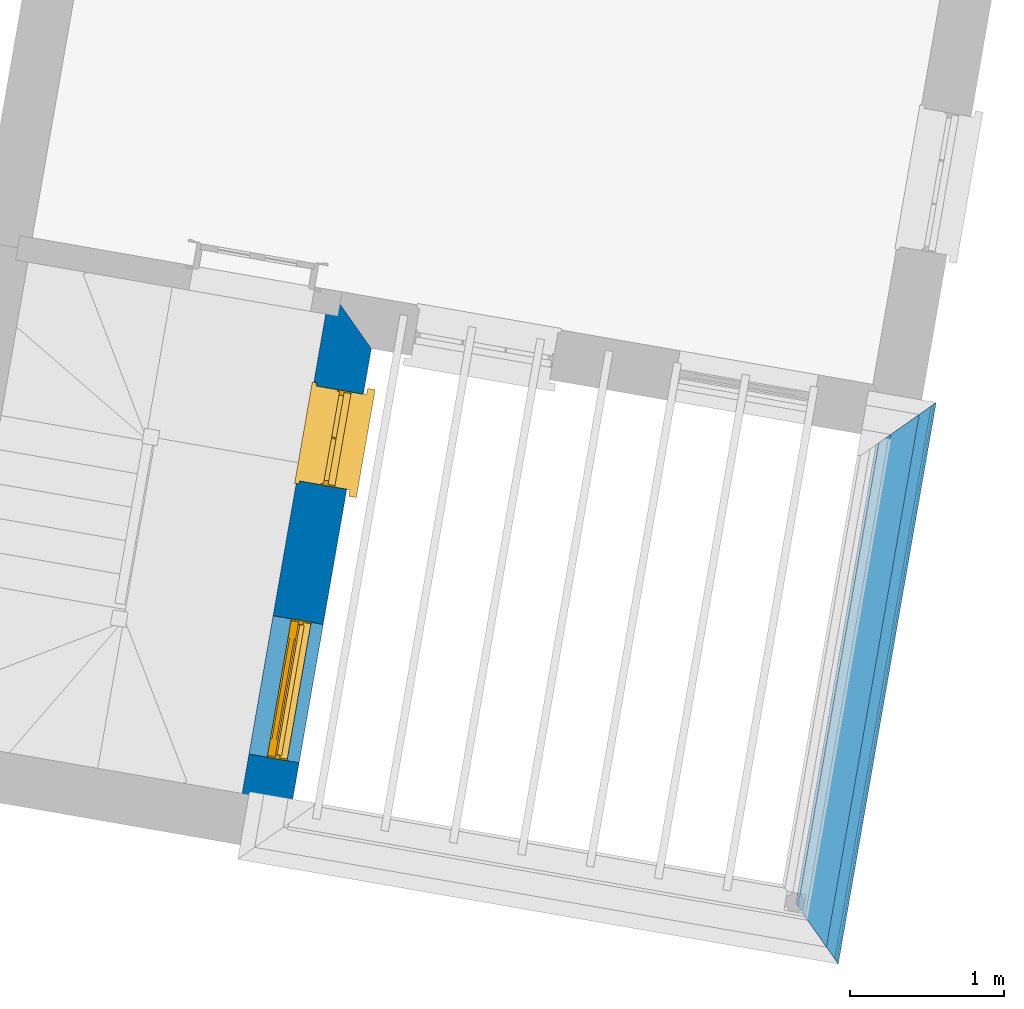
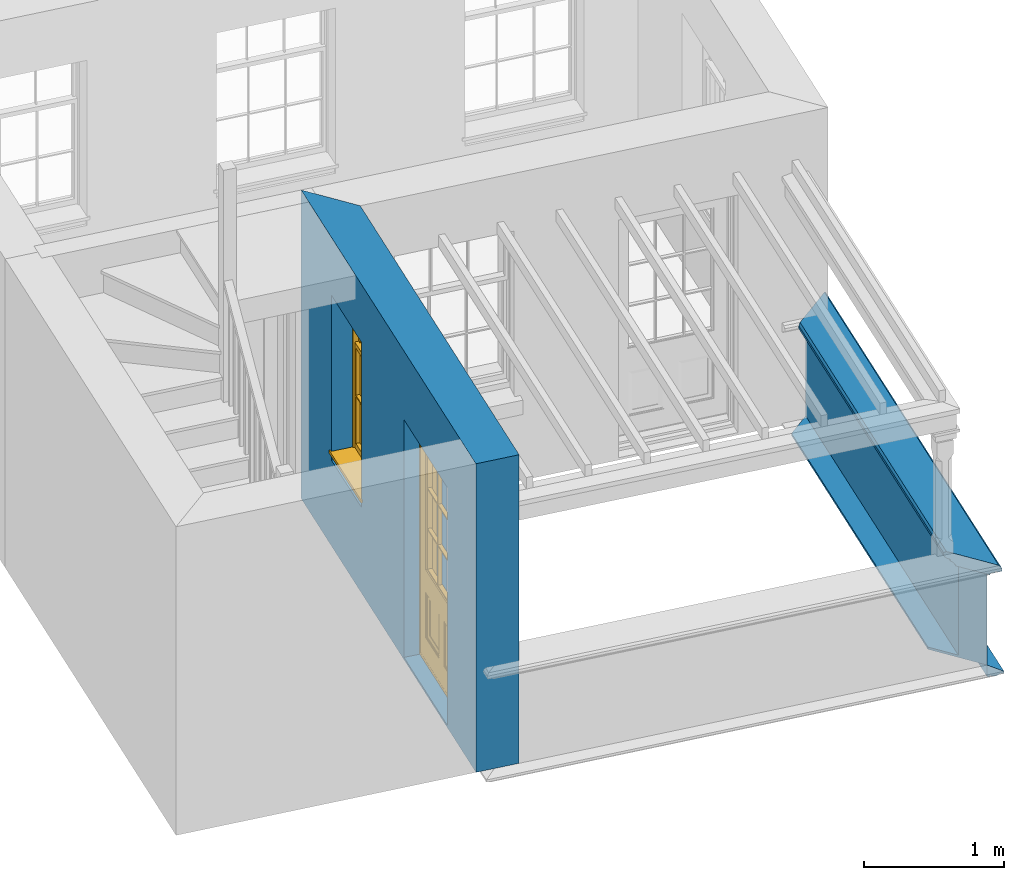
# One storey, part 2 of 6: 4 walls, 1 door, 1 window, 2 openings.
"""IFC4 building model written with IfcOpenShell, lengths in metres."""

from ifc_helpers import new_model, si_unit, frame, origin, origin_with_axes, place, context, subcontext, project, spatial, polyline, outline, extrude, clip, halfspace, faceted_brep, source, transform, mapped, material, layer, layer_set, layer_usage, material_profile, profile_set, profile_usage, type_object, type_shapes, element, fill, save


model = new_model("IFC4")

# Units and contexts
model_context = context("Model", 3, world=origin_with_axes())
body_context = subcontext(model_context, "Body", "Model", "MODEL_VIEW")
ifc_project = project(units=[si_unit("PLANEANGLEUNIT", "RADIAN"), si_unit("MASSUNIT", "GRAM", prefix="KILO"), si_unit("FORCEUNIT", "NEWTON", prefix="KILO"), si_unit("LENGTHUNIT", "METRE"), si_unit("AREAUNIT", "SQUARE_METRE"), si_unit("VOLUMEUNIT", "CUBIC_METRE")], contexts=[model_context, model_context])

# Sites, building, storey
site_1_placement = place(None, origin_with_axes())
site_1 = spatial("IfcSite", under=ifc_project, at=site_1_placement, Name="Tamar")
site_2_placement = place(site_1_placement, origin_with_axes())
site_2 = spatial("IfcSite", under=site_1, at=site_2_placement, Name="Site plot-27", CompositionType="ELEMENT")
building_placement = place(None, origin_with_axes())
building = spatial("IfcBuilding", under=site_2, at=building_placement, Name="Building plot-27", CompositionType="ELEMENT")
storey_placement = place(None, frame((0.0, 0.0, 29.3), z_axis=(0.0, 0.0, 1.0), x_axis=(1.0, 0.0, 0.0)))
storey = spatial("IfcBuildingStorey", under=building, at=storey_placement, Name="plot-27 1", CompositionType="ELEMENT", Elevation=29.3)

# Wall, openings, door, window
ifc_material = material(Name="Masonry")
ifc_layer = layer(ifc_material, 0.33, ventilated=False)
ifc_layer_set = layer_set([ifc_layer], Name="exterior_0.08_0.25")
ifc_layer_usage = layer_usage(ifc_layer_set, "AXIS2", "POSITIVE", -0.25)
wall_type_1 = type_object("IfcWallType", Name="exterior_0.08_0.25", PredefinedType="SOLIDWALL", material=ifc_layer_set)
wall_1_placement = place(storey_placement, frame((293.112935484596, 268.867053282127, 0.0), z_axis=(0.0, 0.0, 1.0), x_axis=(0.171788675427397, 0.985133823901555, 0.0)))
wall_1 = element("IfcWall", 1, at=wall_1_placement, inside=storey, type_object=wall_type_1, material=ifc_layer_usage, Name="exterior", context=body_context, shape_type="SweptSolid", body=[
    extrude(outline(polyline([(-0.25000000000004, 0.0800000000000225), (-0.250000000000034, -0.249999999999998), (3.06378432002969, -0.250000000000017), (3.39378432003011, 0.0800000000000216), (-0.25000000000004, 0.0800000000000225)])), origin_with_axes(), (0.0, 0.0, 1.0), 2.7),
])
opening_1_placement = place(wall_1_placement, frame((0.339392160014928, 0.0, 0.0199999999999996)))
opening_1 = element("IfcOpeningElement", 2, at=opening_1_placement, cuts=wall_1, Name="My Opening", ObjectType="Opening", context=body_context, shape_type="SweptSolid", body=[
    extrude(outline(polyline([(0.0, -0.269999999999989), (0.910000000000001, -0.270000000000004), (0.90999999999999, 1.09999999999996), (-1.12687636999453e-14, 1.09999999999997), (0.0, -0.269999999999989)])), origin_with_axes(), (0.0, 0.0, 1.0), 2.08),
])
opening_2_placement = place(wall_1_placement, frame((2.13878432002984, 0.0, 0.75)))
opening_2 = element("IfcOpeningElement", 3, at=opening_2_placement, cuts=wall_1, Name="My Opening", ObjectType="Opening", context=body_context, shape_type="SweptSolid", body=[
    extrude(outline(polyline([(0.0, -0.269999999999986), (0.625000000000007, -0.270000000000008), (0.624999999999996, 1.09999999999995), (-1.11022302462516e-14, 1.09999999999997), (0.0, -0.269999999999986)])), origin_with_axes(), (0.0, 0.0, 1.0), 1.445),
])
door_type = type_object("IfcDoorType", Name="door_panelled", OperationType="SINGLE_SWING_LEFT", PredefinedType="NOTDEFINED")
shared_shape_1 = source(origin(), body_context, "Body", "Brep", [
    faceted_brep([(0.545, 0.195, 0.265), (0.745, 0.195, 0.265), (0.745, 0.2, 0.265), (0.545, 0.2, 0.265), (0.745, 0.2, 0.58), (0.545, 0.2, 0.58), (0.545, 0.195, 0.58), (0.515, 0.19, 0.235), (0.775, 0.19, 0.235), (0.745, 0.195, 0.58), (0.515, 0.19, 0.61), (0.515, 0.185, 0.235), (0.775, 0.185, 0.235), (0.775, 0.19, 0.61), (0.515, 0.185, 0.61), (0.785, 0.185, 0.225), (0.505, 0.185, 0.225), (0.775, 0.185, 0.61), (0.505, 0.185, 0.62), (0.785, 0.185, 0.62), (0.505, 0.18, 0.225), (0.785, 0.18, 0.225), (0.505, 0.18, 0.62), (0.785, 0.18, 0.62), (0.883, 0.18, 0.075), (0.898, 0.18, 0.075), (0.405, 0.18, 0.62), (0.405, 0.18, 0.225), (0.027, 0.18, 0.075), (0.785, 0.18, 0.82), (0.125, 0.18, 0.82), (0.405, 0.185, 0.62), (0.405, 0.185, 0.225), (0.898, 0.18, 2.068), (0.027, 0.17, 0.075), (0.883, 0.17, 0.075), (0.125, 0.18, 0.225), (0.012, 0.18, 0.075), (0.785, 0.19, 0.82), (0.125, 0.19, 0.82), (0.125, 0.18, 0.62), (0.125, 0.185, 0.62), (0.395, 0.185, 0.61), (0.395, 0.185, 0.235), (0.125, 0.185, 0.225), (0.785, 0.18, 1.895), (0.027, 0.14, 0.045), (0.883, 0.14, 0.045), (0.558333, 0.19, 0.83), (0.351667, 0.19, 0.83), (0.125, 0.18, 1.895), (0.125, 0.19, 1.895), (0.785, 0.19, 1.895), (0.012, 0.18, 2.068), (0.135, 0.185, 0.61), (0.395, 0.19, 0.61), (0.395, 0.19, 0.235), (0.135, 0.185, 0.235), (0.027, 0.14, 0.027), (0.883, 0.14, 0.027), (0.568333, 0.19, 0.83), (0.558333, 0.22, 0.83), (0.351667, 0.22, 0.83), (0.341667, 0.19, 0.83), (0.135, 0.19, 1.185), (0.135, 0.19, 1.53), (0.775, 0.19, 1.53), (0.775, 0.19, 1.185), (0.135, 0.19, 0.61), (0.365, 0.195, 0.58), (0.365, 0.195, 0.265), (0.135, 0.19, 0.235), (0.568333, 0.19, 1.175), (0.558333, 0.19, 1.175), (0.775, 0.19, 0.83), (0.558333, 0.22, 1.175), (0.785, 0.22, 0.82), (0.125, 0.22, 0.82), (0.351667, 0.22, 1.175), (0.351667, 0.19, 1.175), (0.341667, 0.19, 1.175), (0.135, 0.19, 0.83), (0.135, 0.19, 1.175), (0.135, 0.22, 1.185), (0.135, 0.22, 1.53), (0.135, 0.19, 1.54), (0.351667, 0.19, 1.885), (0.558333, 0.19, 1.885), (0.775, 0.22, 1.53), (0.775, 0.22, 1.185), (0.775, 0.19, 1.175), (0.775, 0.19, 1.54), (0.165, 0.195, 0.58), (0.365, 0.2, 0.58), (0.365, 0.2, 0.265), (0.165, 0.195, 0.265), (0.568333, 0.22, 0.83), (0.568333, 0.22, 1.175), (0.568333, 0.19, 1.185), (0.558333, 0.19, 1.185), (0.775, 0.22, 0.83), (0.785, 0.23, 0.82), (0.125, 0.23, 0.82), (0.341667, 0.22, 0.83), (0.341667, 0.22, 1.175), (0.351667, 0.19, 1.185), (0.341667, 0.19, 1.185), (0.135, 0.22, 0.83), (0.341667, 0.22, 1.185), (0.125, 0.22, 1.895), (0.341667, 0.22, 1.53), (0.341667, 0.19, 1.53), (0.135, 0.19, 1.885), (0.341667, 0.19, 1.54), (0.341667, 0.19, 1.885), (0.558333, 0.22, 1.885), (0.351667, 0.22, 1.885), (0.568333, 0.19, 1.885), (0.785, 0.22, 1.895), (0.568333, 0.22, 1.185), (0.568333, 0.19, 1.53), (0.568333, 0.22, 1.53), (0.568333, 0.19, 1.54), (0.775, 0.19, 1.885), (0.165, 0.2, 0.58), (0.165, 0.2, 0.265), (0.775, 0.22, 1.175), (0.558333, 0.19, 1.53), (0.351667, 0.22, 1.185), (0.558333, 0.22, 1.185), (0.505, 0.23, 0.62), (0.405, 0.23, 0.62), (0.125, 0.23, 1.895), (0.785, 0.23, 1.895), (0.351667, 0.19, 1.53), (0.135, 0.22, 1.175), (0.135, 0.22, 1.54), (0.341667, 0.22, 1.54), (0.135, 0.22, 1.885), (0.351667, 0.19, 1.54), (0.558333, 0.22, 1.54), (0.558333, 0.19, 1.54), (0.351667, 0.22, 1.54), (0.775, 0.22, 1.54), (0.568333, 0.22, 1.54), (0.775, 0.22, 1.885), (0.558333, 0.22, 1.53), (0.405, 0.23, 0.225), (0.505, 0.23, 0.225), (0.125, 0.23, 0.62), (0.785, 0.23, 0.62), (0.012, 0.23, 2.068), (0.898, 0.23, 2.068), (0.351667, 0.22, 1.53), (0.341667, 0.22, 1.885), (0.568333, 0.22, 1.885), (0.405, 0.225, 0.225), (0.405, 0.225, 0.62), (0.505, 0.225, 0.62), (0.505, 0.225, 0.225), (0.898, 0.23, 0.027), (0.012, 0.23, 0.027), (0.125, 0.225, 0.62), (0.785, 0.225, 0.62), (0.395, 0.225, 0.235), (0.395, 0.225, 0.61), (0.125, 0.23, 0.225), (0.125, 0.225, 0.225), (0.515, 0.225, 0.61), (0.515, 0.225, 0.235), (0.785, 0.23, 0.225), (0.785, 0.225, 0.225), (0.135, 0.225, 0.61), (0.775, 0.225, 0.61), (0.135, 0.225, 0.235), (0.395, 0.22, 0.235), (0.395, 0.22, 0.61), (0.515, 0.22, 0.61), (0.515, 0.22, 0.235), (0.775, 0.225, 0.235), (0.135, 0.22, 0.61), (0.775, 0.22, 0.61), (0.135, 0.22, 0.235), (0.365, 0.215, 0.265), (0.365, 0.215, 0.58), (0.545, 0.215, 0.58), (0.545, 0.215, 0.265), (0.775, 0.22, 0.235), (0.165, 0.215, 0.58), (0.745, 0.215, 0.58), (0.165, 0.215, 0.265), (0.365, 0.21, 0.58), (0.365, 0.21, 0.265), (0.545, 0.21, 0.58), (0.545, 0.21, 0.265), (0.745, 0.215, 0.265), (0.165, 0.21, 0.58), (0.745, 0.21, 0.58), (0.165, 0.21, 0.265), (0.745, 0.21, 0.265), (0.885, 0.178, 0.025), (0.025, 0.178, 0.025), (0.025, 0.15, 0.025), (0.885, 0.15, 0.025), (0.9, 0.23, 0.025), (0.01, 0.23, 0.025), (0.9, 0.178, 0.025), (0.91, 0.23, 0.0), (0.0, 0.23, 0.0), (0.01, 0.178, 0.025), (0.9, 0.178, 2.07), (0.9, 0.23, 2.07), (0.885, 0.178, 2.055), (0.91, 0.23, 2.08), (0.01, 0.23, 2.07), (0.0, 0.23, 2.08), (0.01, 0.178, 2.07), (0.025, 0.178, 2.055), (0.0, 0.1, 2.08), (0.91, 0.1, 2.08), (0.01, 0.1, 2.07), (0.9, 0.1, 2.07), (0.01, 0.15, 2.07), (0.9, 0.15, 2.07), (0.0, 0.1, 0.0), (0.91, 0.1, 0.0), (0.01, 0.1, 0.025), (0.9, 0.1, 0.025), (0.01, 0.15, 0.025), (0.025, 0.15, 2.055), (0.9, 0.15, 0.025), (0.885, 0.15, 2.055), (0.898, 0.18, 0.027), (0.012, 0.18, 0.027), (0.883, 0.18, 0.027), (0.027, 0.18, 0.027)], [[[0, 1, 2, 3]], [[2, 4, 5, 3]], [[0, 3, 5, 6]], [[1, 0, 7, 8]], [[9, 4, 2, 1]], [[9, 6, 5, 4]], [[0, 6, 10, 7]], [[8, 7, 11, 12]], [[8, 13, 9, 1]], [[13, 10, 6, 9]], [[7, 10, 14, 11]], [[15, 12, 11, 16]], [[12, 17, 13, 8]], [[17, 14, 10, 13]], [[18, 16, 11, 14]], [[15, 19, 17, 12]], [[15, 16, 20, 21]], [[14, 17, 19, 18]], [[16, 18, 22, 20]], [[21, 23, 19, 15]], [[24, 25, 21, 20]], [[23, 22, 18, 19]], [[20, 22, 26, 27]], [[23, 21, 25]], [[28, 24, 20, 27]], [[22, 23, 29]], [[29, 30, 26, 22]], [[27, 26, 31, 32]], [[23, 25, 33, 29]], [[34, 35, 24, 28]], [[28, 27, 36, 37]], [[38, 39, 30, 29]], [[26, 30, 40]], [[26, 40, 41, 31]], [[42, 43, 32, 31]], [[32, 44, 36, 27]], [[33, 45, 29]], [[46, 47, 35, 34]], [[36, 40, 37]], [[39, 38, 48, 49]], [[50, 30, 39, 51]], [[29, 45, 52, 38]], [[53, 37, 40, 30]], [[44, 41, 40, 36]], [[31, 41, 54, 42]], [[43, 42, 55, 56]], [[57, 44, 32, 43]], [[50, 45, 33, 53]], [[47, 46, 58, 59]], [[60, 48, 38]], [[49, 48, 61, 62]], [[49, 63, 39]], [[50, 53, 30]], [[51, 39, 64, 65]], [[45, 50, 51, 52]], [[66, 67, 38, 52]], [[57, 54, 41, 44]], [[42, 54, 68, 55]], [[56, 55, 69, 70]], [[56, 71, 57, 43]], [[60, 72, 73, 48]], [[60, 38, 74]], [[48, 73, 75, 61]], [[76, 77, 62, 61]], [[62, 78, 79, 49]], [[49, 79, 80, 63]], [[63, 81, 39]], [[82, 64, 39]], [[65, 64, 83, 84]], [[85, 51, 65]], [[52, 51, 86, 87]], [[88, 89, 67, 66]], [[90, 38, 67]], [[91, 66, 52]], [[71, 68, 54, 57]], [[55, 68, 92, 69]], [[69, 93, 94, 70]], [[70, 95, 71, 56]], [[96, 97, 72, 60]], [[73, 72, 98, 99]], [[74, 38, 90]], [[100, 96, 60, 74]], [[75, 73, 79, 78]], [[61, 75, 97, 96]], [[101, 102, 77, 76]], [[77, 103, 62]], [[96, 76, 61]], [[103, 104, 78, 62]], [[80, 79, 105, 106]], [[63, 80, 104, 103]], [[81, 63, 103, 107]], [[81, 82, 39]], [[106, 64, 82, 80]], [[106, 108, 83, 64]], [[84, 83, 77, 109]], [[110, 111, 65, 84]], [[112, 51, 85]], [[113, 85, 65, 111]], [[114, 86, 51]], [[115, 87, 86, 116]], [[117, 52, 87]], [[118, 76, 89, 88]], [[119, 98, 67, 89]], [[120, 121, 88, 66]], [[67, 98, 72, 90]], [[91, 122, 120, 66]], [[91, 52, 123]], [[95, 92, 68, 71]], [[69, 92, 124, 93]], [[94, 93, 124, 125]], [[94, 125, 95, 70]], [[72, 97, 126, 90]], [[127, 99, 98, 120]], [[99, 105, 79, 73]], [[74, 90, 126, 100]], [[96, 100, 76]], [[128, 129, 75, 78]], [[97, 75, 129, 119]], [[130, 131, 102, 101]], [[109, 77, 102, 132]], [[133, 101, 76, 118]], [[77, 107, 103]], [[78, 104, 108, 128]], [[111, 106, 105, 134]], [[104, 80, 82, 135]], [[107, 135, 82, 81]], [[110, 108, 106, 111]], [[104, 135, 83, 108]], [[83, 135, 77]], [[136, 84, 109]], [[110, 84, 136, 137]], [[114, 51, 112]], [[85, 136, 138, 112]], [[113, 137, 136, 85]], [[111, 134, 139, 113]], [[86, 114, 113, 139]], [[140, 141, 87, 115]], [[139, 142, 116, 86]], [[109, 118, 115, 116]], [[117, 123, 52]], [[117, 87, 141, 122]], [[126, 89, 76]], [[143, 118, 88]], [[120, 98, 119, 121]], [[119, 89, 126, 97]], [[144, 143, 88, 121]], [[144, 122, 91, 143]], [[127, 120, 122, 141]], [[143, 91, 123, 145]], [[124, 92, 95, 125]], [[146, 129, 99, 127]], [[99, 129, 128, 105]], [[100, 126, 76]], [[121, 119, 129, 146]], [[147, 131, 130, 148]], [[131, 149, 102]], [[130, 101, 150]], [[102, 151, 132]], [[118, 109, 132, 133]], [[101, 133, 152]], [[107, 77, 135]], [[153, 128, 108, 110]], [[134, 105, 128, 153]], [[109, 138, 136]], [[153, 110, 137, 142]], [[154, 114, 112, 138]], [[137, 113, 114, 154]], [[141, 139, 134, 127]], [[141, 140, 142, 139]], [[144, 140, 115, 155]], [[142, 137, 154, 116]], [[155, 115, 118]], [[116, 154, 109]], [[117, 155, 145, 123]], [[122, 144, 155, 117]], [[143, 145, 118]], [[121, 146, 140, 144]], [[146, 127, 134, 153]], [[156, 157, 131, 147]], [[148, 130, 158, 159]], [[148, 160, 161, 147]], [[157, 162, 149, 131]], [[161, 151, 102, 149]], [[101, 152, 160, 150]], [[163, 158, 130, 150]], [[151, 152, 133, 132]], [[154, 138, 109]], [[142, 140, 146, 153]], [[145, 155, 118]], [[157, 156, 164, 165]], [[147, 166, 167, 156]], [[168, 169, 159, 158]], [[170, 148, 159, 171]], [[148, 170, 160]], [[166, 147, 161]], [[172, 162, 157, 165]], [[166, 149, 162, 167]], [[166, 161, 149]], [[150, 160, 170]], [[163, 173, 168, 158]], [[171, 163, 150, 170]], [[174, 164, 156, 167]], [[175, 176, 165, 164]], [[169, 168, 177, 178]], [[171, 159, 169, 179]], [[167, 162, 172, 174]], [[176, 180, 172, 165]], [[179, 173, 163, 171]], [[181, 177, 168, 173]], [[164, 174, 182, 175]], [[183, 184, 176, 175]], [[178, 177, 185, 186]], [[179, 169, 178, 187]], [[174, 172, 180, 182]], [[184, 188, 180, 176]], [[187, 181, 173, 179]], [[189, 185, 177, 181]], [[175, 182, 190, 183]], [[191, 184, 183, 192]], [[185, 193, 194, 186]], [[187, 178, 186, 195]], [[182, 180, 188, 190]], [[191, 196, 188, 184]], [[195, 189, 181, 187]], [[197, 193, 185, 189]], [[183, 190, 198, 192]], [[198, 196, 191, 192]], [[194, 193, 197, 199]], [[195, 186, 194, 199]], [[188, 196, 198, 190]], [[197, 189, 195, 199]], [[200, 201, 202, 203]], [[201, 200, 204, 205]], [[206, 204, 200]], [[204, 207, 208, 205]], [[209, 201, 205]], [[210, 211, 204, 206]], [[206, 200, 212, 210]], [[211, 213, 207, 204]], [[214, 205, 208, 215]], [[216, 217, 201, 209]], [[205, 214, 216, 209]], [[216, 214, 211, 210]], [[210, 212, 217, 216]], [[214, 215, 213, 211]], [[218, 219, 213, 215]], [[219, 218, 220, 221]], [[221, 220, 222, 223]], [[215, 208, 224, 218]], [[225, 224, 208, 207]], [[224, 226, 220, 218]], [[224, 225, 227, 226]], [[219, 225, 207, 213]], [[228, 222, 220, 226]], [[219, 221, 227, 225]], [[226, 227, 203, 202]], [[202, 229, 222, 228]], [[228, 226, 202]], [[227, 221, 223, 230]], [[230, 203, 227]], [[217, 229, 202, 201]], [[231, 223, 222, 229]], [[230, 223, 231, 203]], [[231, 229, 217, 212]], [[212, 200, 203, 231]], [[33, 152, 151, 53]], [[25, 160, 152, 33]], [[161, 37, 53, 151]], [[232, 160, 25]], [[161, 233, 37]], [[160, 232, 234]], [[24, 234, 232, 25]], [[233, 161, 235]], [[37, 233, 235, 28]], [[161, 160, 234, 235]], [[35, 47, 234, 24]], [[28, 235, 46, 34]], [[58, 235, 234, 59]], [[59, 234, 47]], [[58, 46, 235]]]),
])
type_shapes(door_type, [shared_shape_1])
door_placement = place(storey_placement, frame((293.437225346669, 269.155017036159, 0.0199999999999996), z_axis=(0.0, 0.0, 1.0), x_axis=(0.156327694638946, 0.896471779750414, 0.0)))
door = element("IfcDoor", 4, at=door_placement, inside=storey, type_object=door_type, Name="circulation outside door", OverallHeight=2.08, OverallWidth=0.91, context=body_context, shape_type="MappedRepresentation", body=[
    mapped(shared_shape_1, transform((0.0, 0.0, 0.0), scale=1.0)),
])
fill(opening_1, door)
window_type = type_object("IfcWindowType", Name="sash_narrow_shorter", PartitioningType="DOUBLE_PANEL_HORIZONTAL", PredefinedType="NOTDEFINED")
shared_shape_2 = source(origin(), body_context, "Body", "Brep", [
    faceted_brep([(0.591875, 0.145, 0.999097), (0.591875, 0.145, 1.411875), (0.615, 0.145, 1.435), (0.033125, 0.145, 1.411875), (0.033125, 0.145, 0.999097), (0.01, 0.145, 1.435), (0.033125, 0.115, 1.411875), (0.01, 0.115, 1.435), (0.033125, 0.115, 0.999097), (0.591875, 0.115, 1.411875), (0.591875, 0.115, 0.999097), (0.615, 0.115, 1.435), (0.033125, 0.145, 0.960972), (0.01, 0.145, 0.960972), (0.033125, 0.145, 0.548195), (0.591875, 0.145, 0.960972), (0.591875, 0.145, 0.548195), (0.615, 0.145, 0.960972), (0.591875, 0.145, 0.538195), (0.591875, 0.145, 0.125417), (0.615, 0.145, 0.077167), (0.033125, 0.145, 0.125417), (0.033125, 0.145, 0.538195), (0.01, 0.145, 0.077167), (0.615, 0.115, 0.960972), (0.01, 0.115, 0.960972), (-0.0425, 0.0, 0.01), (-0.0425, -0.05, 0.001667), (0.0, 0.0, 0.01), (0.6675, 0.0, 0.01), (0.625, 0.0, 0.01), (0.6675, -0.05, 0.001667), (-0.02, 0.33, 0.077167), (0.0, 0.33, 0.077167), (-0.02, 0.36, 0.077167), (0.0, 0.19, 0.077167), (0.01, 0.19, 0.077167), (0.625, 0.19, 0.077167), (0.625, 0.33, 0.077167), (0.615, 0.19, 0.077167), (0.645, 0.33, 0.077167), (0.645, 0.36, 0.077167), (0.01, 0.145, 0.999097), (0.01, 0.175, 0.999097), (0.615, 0.145, 0.999097), (0.615, 0.175, 0.999097), (0.591875, 0.175, 0.125417), (0.591875, 0.175, 0.538195), (0.615, 0.175, 0.077167), (0.591875, 0.175, 0.548195), (0.591875, 0.175, 0.960972), (0.033125, 0.175, 0.125417), (0.01, 0.175, 0.077167), (0.033125, 0.175, 0.538195), (0.033125, 0.175, 0.960972), (0.033125, 0.175, 0.548195), (-0.02, 0.33, 0.052167), (-0.02, 0.36, 0.052167), (0.645, 0.36, 0.052167), (0.645, 0.33, 0.052167), (0.625, 0.33, 0.052167), (0.0, 0.33, 0.052167), (0.625, 0.1, 0.026667), (0.0, 0.1, 0.026667), (-0.0425, -0.05, -0.123333), (0.6675, -0.05, -0.123333), (-0.0425, 0.0, -0.123333), (0.6675, 0.0, -0.123333), (0.01, 0.19, 1.435), (0.615, 0.19, 1.435), (0.0, 0.19, 1.445), (0.625, 0.19, 1.445), (0.01, 0.1, 0.077167), (0.615, 0.1, 0.077167), (0.3175, 0.175, 0.548195), (0.3175, 0.145, 0.548195), (0.3175, 0.175, 0.538195), (0.3175, 0.175, 0.125417), (0.3075, 0.175, 0.125417), (0.3075, 0.175, 0.538195), (0.3075, 0.175, 0.548195), (0.3175, 0.175, 0.960972), (0.3075, 0.175, 0.960972), (0.3075, 0.145, 0.538195), (0.3075, 0.145, 0.125417), (0.3175, 0.145, 0.125417), (0.3175, 0.145, 0.538195), (0.3075, 0.145, 0.548195), (0.3075, 0.145, 0.960972), (0.3175, 0.145, 0.960972), (0.3175, 0.115, 1.411875), (0.3075, 0.115, 1.411875), (0.3075, 0.115, 0.999097), (0.3175, 0.115, 0.999097), (0.3175, 0.145, 0.999097), (0.3075, 0.145, 0.999097), (0.3075, 0.145, 1.411875), (0.3175, 0.145, 1.411875), (0.625, 0.1, 1.445), (0.615, 0.1, 1.435), (0.01, 0.1, 1.435), (0.0, 0.1, 1.445), (0.625, 0.0, 0.0), (0.0, 0.0, 0.0), (0.625, 0.33, 0.0), (0.0, 0.33, 0.0)], [[[0, 1, 2]], [[3, 4, 5]], [[6, 7, 8]], [[9, 10, 11]], [[12, 13, 14]], [[15, 16, 17]], [[18, 19, 20]], [[21, 22, 23]], [[24, 15, 17]], [[13, 12, 25]], [[26, 27, 28]], [[29, 30, 31]], [[32, 33, 34]], [[35, 36, 33]], [[37, 38, 39]], [[40, 41, 38]], [[42, 4, 43]], [[44, 45, 0]], [[46, 47, 48]], [[49, 50, 45]], [[51, 52, 53]], [[54, 55, 43]], [[38, 33, 36, 39]], [[41, 34, 33, 38]], [[56, 32, 34, 57]], [[57, 34, 41, 58]], [[58, 41, 40, 59]], [[57, 58, 60, 61]], [[52, 48, 39, 36]], [[62, 63, 28, 30]], [[27, 31, 30, 28]], [[27, 64, 65, 31]], [[66, 67, 65, 64]], [[2, 5, 68, 69]], [[68, 70, 71, 69]], [[20, 23, 72, 73]], [[73, 72, 63, 62]], [[16, 49, 74, 75]], [[76, 77, 78, 79]], [[80, 79, 53, 55]], [[81, 74, 80, 82]], [[76, 74, 49, 47]], [[83, 79, 78, 84]], [[22, 53, 79, 83]], [[85, 77, 76, 86]], [[87, 80, 55, 14]], [[88, 82, 80, 87]], [[75, 74, 81, 89]], [[86, 76, 47, 18]], [[86, 18, 16, 75]], [[86, 83, 84, 85]], [[87, 14, 22, 83]], [[89, 88, 87, 75]], [[90, 91, 92, 93]], [[94, 95, 96, 97]], [[91, 96, 95, 92]], [[93, 94, 97, 90]], [[74, 76, 79, 80]], [[75, 87, 83, 86]], [[84, 78, 51, 21]], [[6, 3, 96, 91]], [[90, 97, 1, 9]], [[19, 46, 77, 85]], [[26, 66, 64, 27]], [[29, 31, 65, 67]], [[25, 24, 93, 92]], [[11, 7, 91, 90]], [[77, 48, 52, 78]], [[43, 45, 81, 82]], [[45, 43, 95, 94]], [[5, 2, 97, 96]], [[24, 25, 88, 89]], [[42, 5, 4]], [[2, 44, 0]], [[49, 45, 48, 47]], [[52, 43, 55, 53]], [[14, 13, 23, 22]], [[20, 17, 16, 18]], [[24, 11, 10]], [[25, 8, 7]], [[8, 4, 3, 6]], [[9, 1, 0, 10]], [[15, 50, 49, 16]], [[18, 47, 46, 19]], [[21, 51, 53, 22]], [[14, 55, 54, 12]], [[44, 2, 69, 45]], [[68, 5, 42, 43]], [[36, 35, 70, 68]], [[39, 69, 71, 37]], [[62, 98, 99, 73]], [[63, 72, 100, 101]], [[8, 92, 95, 4]], [[93, 10, 0, 94]], [[82, 88, 12, 54]], [[17, 20, 73, 24]], [[72, 23, 13, 25]], [[52, 36, 68, 43]], [[69, 39, 48, 45]], [[11, 24, 73, 99]], [[7, 100, 72, 25]], [[84, 21, 23]], [[20, 19, 85]], [[20, 85, 84, 23]], [[24, 10, 93]], [[92, 8, 25]], [[90, 9, 11]], [[7, 6, 91]], [[96, 3, 5]], [[2, 1, 97]], [[11, 99, 100, 7]], [[98, 101, 100, 99]], [[82, 54, 43]], [[50, 81, 45]], [[15, 89, 81, 50]], [[77, 46, 48]], [[52, 51, 78]], [[89, 15, 24]], [[25, 12, 88]], [[43, 4, 95]], [[94, 0, 45]], [[71, 70, 101, 98]], [[70, 35, 63, 101]], [[98, 62, 37, 71]], [[102, 67, 66, 103]], [[60, 58, 59]], [[38, 60, 59, 40]], [[61, 56, 57]], [[32, 56, 61, 33]], [[61, 60, 104, 105]], [[62, 60, 38, 37]], [[102, 104, 60, 62]], [[33, 61, 63, 35]], [[61, 105, 103, 63]], [[104, 102, 103, 105]], [[28, 103, 66, 26]], [[63, 103, 28]], [[29, 67, 102, 30]], [[30, 102, 62]]]),
])
type_shapes(window_type, [shared_shape_2])
window_placement = place(storey_placement, frame((293.746340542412, 270.927659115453, 0.75), z_axis=(0.0, 0.0, 1.0), x_axis=(0.107367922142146, 0.615708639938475, 0.0)))
window = element("IfcWindow", 5, at=window_placement, inside=storey, type_object=window_type, Name="circulation outside window", OverallHeight=1.445, OverallWidth=0.625, context=body_context, shape_type="MappedRepresentation", body=[
    mapped(shared_shape_2, transform((0.0, 0.0, 0.0), scale=1.0)),
])
fill(opening_2, window)

# Walls
ifc_material_profile_1 = material_profile(None, outline(polyline([(0.25, 0.0), (0.25, 0.795), (0.09, 0.795), (0.09, 0.02), (-0.08, 0.02), (-0.08, 0.0), (0.25, 0.0)])))
ifc_profile_set_1 = profile_set([ifc_material_profile_1])
ifc_profile_usage_1 = profile_usage(ifc_profile_set_1)
wall_type_2 = type_object("IfcWallType", Name="parapet_0", PredefinedType="PARAPET", material=ifc_profile_set_1)
wall_2_placement = place(storey_placement, frame((297.318503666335, 272.197885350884, 0.0), z_axis=(-0.171788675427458, -0.985133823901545, 0.0), x_axis=(0.985133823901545, -0.171788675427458, 0.0)))
element("IfcWall", 6, at=wall_2_placement, inside=storey, type_object=wall_type_2, material=ifc_profile_usage_1, Name="parapet_0", context=body_context, shape_type="Clipping", body=[
    clip(clip(extrude(outline(polyline([(0.25, 0.0), (0.25, 0.795), (0.09, 0.795), (0.09, 0.02), (-0.08, 0.02), (-0.08, 0.0), (0.25, 0.0)])), origin_with_axes(), (0.0, 0.0, 1.0), 5.00378432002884), halfspace(frame((0.0, 0.0, 4.00378432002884), z_axis=(0.707106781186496, 0.0, -0.707106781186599), x_axis=(0.0, 1.0, 0.0)), True)), halfspace(frame((0.0, 0.0, 1.0), z_axis=(-0.707106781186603, 0.0, -0.707106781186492), x_axis=(0.0, 1.0, 0.0)), False)),
])
ifc_material_profile_2 = material_profile(None, outline(polyline([(0.265, 0.795), (0.268, 0.807), (0.274, 0.816), (0.283, 0.822), (0.295, 0.825), (0.295, 0.84), (0.305, 0.84), (0.317, 0.842), (0.326, 0.849), (0.333, 0.858), (0.335, 0.87), (0.333, 0.882), (0.326, 0.891), (0.317, 0.898), (0.305, 0.9), (0.035, 0.9), (0.023, 0.898), (0.014, 0.891), (0.007, 0.882), (0.005, 0.87), (0.007, 0.858), (0.014, 0.849), (0.023, 0.842), (0.035, 0.84), (0.045, 0.84), (0.045, 0.825), (0.057, 0.822), (0.066, 0.816), (0.072, 0.807), (0.075, 0.795), (0.265, 0.795)])))
ifc_profile_set_2 = profile_set([ifc_material_profile_2])
ifc_profile_usage_2 = profile_usage(ifc_profile_set_2)
wall_type_3 = type_object("IfcWallType", Name="parapet_1", PredefinedType="PARAPET", material=ifc_profile_set_2)
wall_3_placement = place(storey_placement, frame((297.318503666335, 272.197885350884, 0.0), z_axis=(-0.171788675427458, -0.985133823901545, 0.0), x_axis=(0.985133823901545, -0.171788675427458, 0.0)))
element("IfcWall", 7, at=wall_3_placement, inside=storey, type_object=wall_type_3, material=ifc_profile_usage_2, Name="parapet_1", context=body_context, shape_type="Clipping", body=[
    clip(clip(extrude(outline(polyline([(0.265, 0.795), (0.268, 0.807), (0.274, 0.816), (0.283, 0.822), (0.295, 0.825), (0.295, 0.84), (0.305, 0.84), (0.317, 0.842), (0.326, 0.849), (0.333, 0.858), (0.335, 0.87), (0.333, 0.882), (0.326, 0.891), (0.317, 0.898), (0.305, 0.9), (0.035, 0.9), (0.023, 0.898), (0.014, 0.891), (0.007, 0.882), (0.005, 0.87), (0.007, 0.858), (0.014, 0.849), (0.023, 0.842), (0.035, 0.84), (0.045, 0.84), (0.045, 0.825), (0.057, 0.822), (0.066, 0.816), (0.072, 0.807), (0.075, 0.795), (0.265, 0.795)])), origin_with_axes(), (0.0, 0.0, 1.0), 5.00378432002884), halfspace(frame((0.0, 0.0, 4.00378432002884), z_axis=(0.707106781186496, 0.0, -0.707106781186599), x_axis=(0.0, 1.0, 0.0)), True)), halfspace(frame((0.0, 0.0, 1.0), z_axis=(-0.707106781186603, 0.0, -0.707106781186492), x_axis=(0.0, 1.0, 0.0)), False)),
])
ifc_material_profile_3 = material_profile(None, outline(polyline([(0.25, -0.1), (0.265, -0.1), (0.265, -0.085), (0.278, -0.084), (0.289, -0.081), (0.301, -0.074), (0.309, -0.065), (0.315, -0.055), (0.324, -0.044), (0.334, -0.038), (0.345, -0.035), (0.345, -0.015), (0.25, 0.0), (0.25, -0.1)])))
ifc_profile_set_3 = profile_set([ifc_material_profile_3])
ifc_profile_usage_3 = profile_usage(ifc_profile_set_3)
wall_type_4 = type_object("IfcWallType", Name="parapet_2", PredefinedType="PARAPET", material=ifc_profile_set_3)
wall_4_placement = place(storey_placement, frame((297.318503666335, 272.197885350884, 0.0), z_axis=(-0.171788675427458, -0.985133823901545, 0.0), x_axis=(0.985133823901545, -0.171788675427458, 0.0)))
element("IfcWall", 8, at=wall_4_placement, inside=storey, type_object=wall_type_4, material=ifc_profile_usage_3, Name="parapet_2", context=body_context, shape_type="Clipping", body=[
    clip(clip(extrude(outline(polyline([(0.25, -0.1), (0.265, -0.1), (0.265, -0.085), (0.278, -0.084), (0.289, -0.081), (0.301, -0.074), (0.309, -0.065), (0.315, -0.055), (0.324, -0.044), (0.334, -0.038), (0.345, -0.035), (0.345, -0.015), (0.25, 0.0), (0.25, -0.1)])), origin_with_axes(), (0.0, 0.0, 1.0), 5.00378432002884), halfspace(frame((0.0, 0.0, 4.00378432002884), z_axis=(0.707106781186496, 0.0, -0.707106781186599), x_axis=(0.0, 1.0, 0.0)), True)), halfspace(frame((0.0, 0.0, 1.0), z_axis=(-0.707106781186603, 0.0, -0.707106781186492), x_axis=(0.0, 1.0, 0.0)), False)),
])

save(model, "model.ifc")
